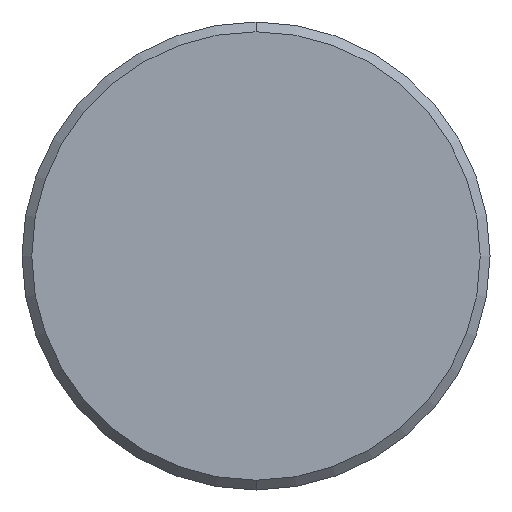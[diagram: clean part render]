
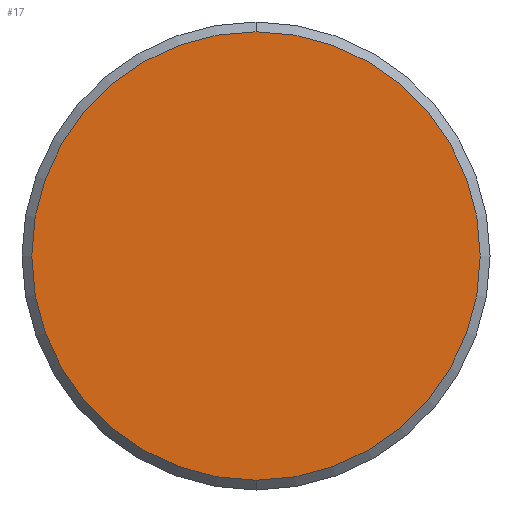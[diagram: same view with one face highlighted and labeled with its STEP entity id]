
A CAD part, front view. The second image highlights one B-rep face of the part: STEP entity #17.
In plain terms, the highlighted planar face has unit normal (0, -1, 0).
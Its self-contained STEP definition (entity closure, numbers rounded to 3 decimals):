
#2 = DIRECTION ( 'NONE',  ( 0., 0., 1. ) ) ;
#3 = CIRCLE ( 'NONE', #74, 2.875 ) ;
#9 = CIRCLE ( 'NONE', #91, 2.875 ) ;
#17 = ADVANCED_FACE ( 'NONE', ( #103 ), #275, .F. ) ;
#29 = EDGE_CURVE ( 'NONE', #161, #133, #9, .T. ) ;
#40 = DIRECTION ( 'NONE',  ( 0., 1., 0. ) ) ;
#42 = EDGE_LOOP ( 'NONE', ( #217, #245 ) ) ;
#44 = DIRECTION ( 'NONE',  ( 0., -1., 0. ) ) ;
#62 = CARTESIAN_POINT ( 'NONE',  ( 0., 0., 0. ) ) ;
#74 = AXIS2_PLACEMENT_3D ( 'NONE', #181, #44, #89 ) ;
#77 = EDGE_CURVE ( 'NONE', #133, #161, #3, .T. ) ;
#89 = DIRECTION ( 'NONE',  ( 0., 0., 1. ) ) ;
#91 = AXIS2_PLACEMENT_3D ( 'NONE', #62, #122, #2 ) ;
#103 = FACE_OUTER_BOUND ( 'NONE', #42, .T. ) ;
#122 = DIRECTION ( 'NONE',  ( 0., -1., 0. ) ) ;
#133 = VERTEX_POINT ( 'NONE', #134 ) ;
#134 = CARTESIAN_POINT ( 'NONE',  ( 0., 0., -2.875 ) ) ;
#161 = VERTEX_POINT ( 'NONE', #261 ) ;
#172 = DIRECTION ( 'NONE',  ( 0., 0., 1. ) ) ;
#181 = CARTESIAN_POINT ( 'NONE',  ( 0., 0., 0. ) ) ;
#217 = ORIENTED_EDGE ( 'NONE', *, *, #29, .T. ) ;
#245 = ORIENTED_EDGE ( 'NONE', *, *, #77, .T. ) ;
#250 = AXIS2_PLACEMENT_3D ( 'NONE', #255, #40, #172 ) ;
#255 = CARTESIAN_POINT ( 'NONE',  ( 0., 0., 0. ) ) ;
#261 = CARTESIAN_POINT ( 'NONE',  ( 0., 0., 2.875 ) ) ;
#275 = PLANE ( 'NONE',  #250 ) ;
